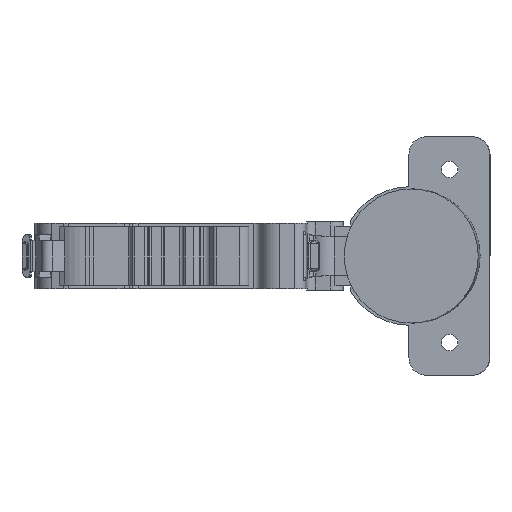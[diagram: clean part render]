
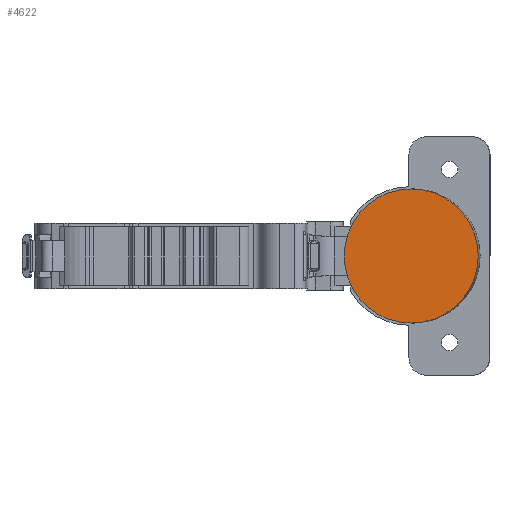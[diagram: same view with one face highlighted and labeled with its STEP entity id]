
A CAD part, front view. The second image highlights one B-rep face of the part: STEP entity #4622.
In plain terms, the highlighted planar face has unit normal (-0.042, -0.999, 0).
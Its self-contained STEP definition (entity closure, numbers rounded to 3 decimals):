
#722 = DIRECTION ( 'NONE',  ( 0.999, -0.042, 0. ) ) ;
#1314 = ORIENTED_EDGE ( 'NONE', *, *, #4116, .T. ) ;
#1671 = CARTESIAN_POINT ( 'NONE',  ( 62.045, -1.526, 0. ) ) ;
#1728 = CIRCLE ( 'NONE', #11033, 17.45 ) ;
#1875 = DIRECTION ( 'NONE',  ( -0.999, 0.042, 0. ) ) ;
#3313 = DIRECTION ( 'NONE',  ( -0.042, -0.999, 0. ) ) ;
#3450 = VERTEX_POINT ( 'NONE', #6059 ) ;
#4116 = EDGE_CURVE ( 'NONE', #4966, #3450, #1728, .T. ) ;
#4622 = ADVANCED_FACE ( 'NONE', ( #7823 ), #8761, .T. ) ;
#4966 = VERTEX_POINT ( 'NONE', #8310 ) ;
#5019 = CIRCLE ( 'NONE', #9476, 17.45 ) ;
#5669 = EDGE_LOOP ( 'NONE', ( #8364, #1314 ) ) ;
#6059 = CARTESIAN_POINT ( 'NONE',  ( 79.48, -2.263, 0. ) ) ;
#6744 = AXIS2_PLACEMENT_3D ( 'NONE', #7985, #9705, #1875 ) ;
#6818 = CARTESIAN_POINT ( 'NONE',  ( 62.045, -1.526, 0. ) ) ;
#7774 = DIRECTION ( 'NONE',  ( -0.042, -0.999, 0. ) ) ;
#7823 = FACE_OUTER_BOUND ( 'NONE', #5669, .T. ) ;
#7985 = CARTESIAN_POINT ( 'NONE',  ( 62.045, -1.526, 0. ) ) ;
#8310 = CARTESIAN_POINT ( 'NONE',  ( 44.611, -0.789, 0. ) ) ;
#8322 = EDGE_CURVE ( 'NONE', #3450, #4966, #5019, .T. ) ;
#8364 = ORIENTED_EDGE ( 'NONE', *, *, #8322, .T. ) ;
#8761 = PLANE ( 'NONE',  #6744 ) ;
#9476 = AXIS2_PLACEMENT_3D ( 'NONE', #1671, #3313, #722 ) ;
#9705 = DIRECTION ( 'NONE',  ( -0.042, -0.999, 0. ) ) ;
#10062 = DIRECTION ( 'NONE',  ( 0.999, -0.042, 0. ) ) ;
#11033 = AXIS2_PLACEMENT_3D ( 'NONE', #6818, #7774, #10062 ) ;
